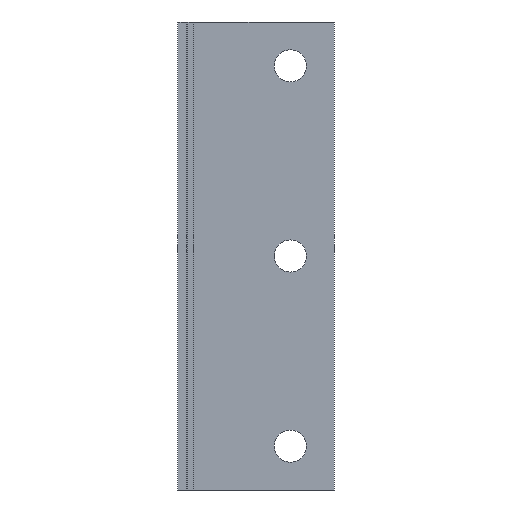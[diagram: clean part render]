
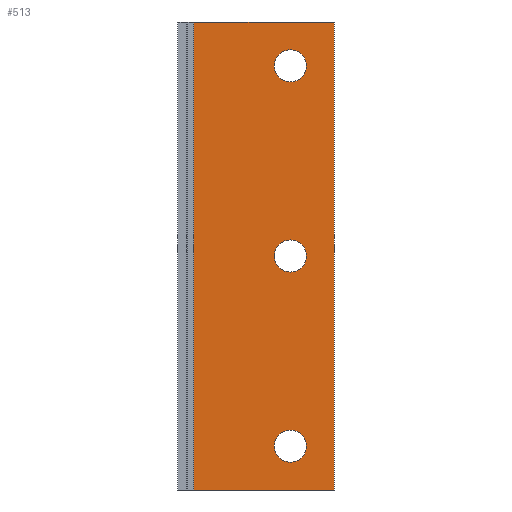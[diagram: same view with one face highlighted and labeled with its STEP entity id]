
A CAD part, front view. The second image highlights one B-rep face of the part: STEP entity #513.
In plain terms, the highlighted planar face has unit normal (0, -1, 0).
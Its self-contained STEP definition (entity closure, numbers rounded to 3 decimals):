
#62 = VERTEX_POINT ( 'NONE', #332 ) ;
#68 = VERTEX_POINT ( 'NONE', #338 ) ;
#70 = VERTEX_POINT ( 'NONE', #340 ) ;
#73 = VERTEX_POINT ( 'NONE', #343 ) ;
#74 = VERTEX_POINT ( 'NONE', #344 ) ;
#78 = VERTEX_POINT ( 'NONE', #348 ) ;
#170 = VERTEX_POINT ( 'NONE', #1761 ) ;
#173 = VERTEX_POINT ( 'NONE', #1764 ) ;
#221 = VERTEX_POINT ( 'NONE', #1810 ) ;
#280 = VERTEX_POINT ( 'NONE', #1826 ) ;
#332 = CARTESIAN_POINT ( 'NONE',  ( 35., 0., -74.5 ) ) ;
#338 = CARTESIAN_POINT ( 'NONE',  ( 35., 0., -150.5 ) ) ;
#340 = CARTESIAN_POINT ( 'NONE',  ( 35., 0., -85.5 ) ) ;
#343 = CARTESIAN_POINT ( 'NONE',  ( 35., 0., -20.5 ) ) ;
#344 = CARTESIAN_POINT ( 'NONE',  ( 35., 0., -9.5 ) ) ;
#348 = CARTESIAN_POINT ( 'NONE',  ( 35., 0., -139.5 ) ) ;
#513 = ADVANCED_FACE ( 'NONE', ( #1683, #1687, #1684, #1686 ), #1855, .T. ) ;
#630 = EDGE_CURVE ( 'NONE', #221, #280, #4234, .T. ) ;
#672 = EDGE_CURVE ( 'NONE', #62, #70, #5066, .T. ) ;
#679 = EDGE_CURVE ( 'NONE', #74, #73, #5071, .T. ) ;
#712 = EDGE_LOOP ( 'NONE', ( #913, #914, #915, #916 ) ) ;
#720 = EDGE_LOOP ( 'NONE', ( #909, #910 ) ) ;
#725 = EDGE_LOOP ( 'NONE', ( #911, #912 ) ) ;
#727 = EDGE_LOOP ( 'NONE', ( #917, #918 ) ) ;
#909 = ORIENTED_EDGE ( 'NONE', *, *, #672, .F. ) ;
#910 = ORIENTED_EDGE ( 'NONE', *, *, #1024, .F. ) ;
#911 = ORIENTED_EDGE ( 'NONE', *, *, #679, .F. ) ;
#912 = ORIENTED_EDGE ( 'NONE', *, *, #1025, .F. ) ;
#913 = ORIENTED_EDGE ( 'NONE', *, *, #630, .F. ) ;
#914 = ORIENTED_EDGE ( 'NONE', *, *, #1026, .F. ) ;
#915 = ORIENTED_EDGE ( 'NONE', *, *, #1027, .T. ) ;
#916 = ORIENTED_EDGE ( 'NONE', *, *, #1022, .T. ) ;
#917 = ORIENTED_EDGE ( 'NONE', *, *, #1479, .F. ) ;
#918 = ORIENTED_EDGE ( 'NONE', *, *, #1028, .F. ) ;
#1022 = EDGE_CURVE ( 'NONE', #173, #280, #5135, .T. ) ;
#1024 = EDGE_CURVE ( 'NONE', #70, #62, #5139, .T. ) ;
#1025 = EDGE_CURVE ( 'NONE', #73, #74, #5141, .T. ) ;
#1026 = EDGE_CURVE ( 'NONE', #170, #221, #5142, .T. ) ;
#1027 = EDGE_CURVE ( 'NONE', #170, #173, #5137, .T. ) ;
#1028 = EDGE_CURVE ( 'NONE', #68, #78, #5145, .T. ) ;
#1479 = EDGE_CURVE ( 'NONE', #78, #68, #7207, .T. ) ;
#1683 = FACE_BOUND ( 'NONE', #720, .T. ) ;
#1684 = FACE_OUTER_BOUND ( 'NONE', #712, .T. ) ;
#1686 = FACE_BOUND ( 'NONE', #727, .T. ) ;
#1687 = FACE_BOUND ( 'NONE', #725, .T. ) ;
#1761 = CARTESIAN_POINT ( 'NONE',  ( 2., 0., -160. ) ) ;
#1764 = CARTESIAN_POINT ( 'NONE',  ( 50., 0., -160. ) ) ;
#1810 = CARTESIAN_POINT ( 'NONE',  ( 2., 0., 0. ) ) ;
#1826 = CARTESIAN_POINT ( 'NONE',  ( 50., 0., 0. ) ) ;
#1855 = PLANE ( 'NONE',  #2068 ) ;
#1863 = CARTESIAN_POINT ( 'NONE',  ( 2., 0., -160. ) ) ;
#1864 = DIRECTION ( 'NONE',  ( 0., -1., 0. ) ) ;
#1865 = DIRECTION ( 'NONE',  ( 0., 0., -1. ) ) ;
#2068 = AXIS2_PLACEMENT_3D ( 'NONE', #1863, #1864, #1865 ) ;
#4131 = AXIS2_PLACEMENT_3D ( 'NONE', #5387, #5388, #5389 ) ;
#4136 = AXIS2_PLACEMENT_3D ( 'NONE', #5406, #5407, #5408 ) ;
#4141 = AXIS2_PLACEMENT_3D ( 'NONE', #5764, #5765, #5766 ) ;
#4142 = AXIS2_PLACEMENT_3D ( 'NONE', #5768, #5769, #5770 ) ;
#4143 = AXIS2_PLACEMENT_3D ( 'NONE', #5776, #5777, #5778 ) ;
#4234 = LINE ( 'NONE', #4721, #4237 ) ;
#4237 = VECTOR ( 'NONE', #4722, 1000. ) ;
#4721 = CARTESIAN_POINT ( 'NONE',  ( 2., 0., 0. ) ) ;
#4722 = DIRECTION ( 'NONE',  ( 1., 0., 0. ) ) ;
#5066 = CIRCLE ( 'NONE', #4131, 5.5 ) ;
#5071 = CIRCLE ( 'NONE', #4136, 5.5 ) ;
#5135 = LINE ( 'NONE', #5759, #5138 ) ;
#5137 = LINE ( 'NONE', #5767, #5146 ) ;
#5138 = VECTOR ( 'NONE', #5760, 1000. ) ;
#5139 = CIRCLE ( 'NONE', #4141, 5.5 ) ;
#5141 = CIRCLE ( 'NONE', #4142, 5.5 ) ;
#5142 = LINE ( 'NONE', #5762, #5144 ) ;
#5144 = VECTOR ( 'NONE', #5763, 1000. ) ;
#5145 = CIRCLE ( 'NONE', #4143, 5.5 ) ;
#5146 = VECTOR ( 'NONE', #5772, 1000. ) ;
#5387 = CARTESIAN_POINT ( 'NONE',  ( 35., 0., -80. ) ) ;
#5388 = DIRECTION ( 'NONE',  ( 0., -1., 0. ) ) ;
#5389 = DIRECTION ( 'NONE',  ( 0., 0., -1. ) ) ;
#5406 = CARTESIAN_POINT ( 'NONE',  ( 35., 0., -15. ) ) ;
#5407 = DIRECTION ( 'NONE',  ( 0., -1., 0. ) ) ;
#5408 = DIRECTION ( 'NONE',  ( 0., 0., -1. ) ) ;
#5759 = CARTESIAN_POINT ( 'NONE',  ( 50., 0., -160. ) ) ;
#5760 = DIRECTION ( 'NONE',  ( 0., 0., 1. ) ) ;
#5762 = CARTESIAN_POINT ( 'NONE',  ( 2., 0., -160. ) ) ;
#5763 = DIRECTION ( 'NONE',  ( 0., 0., 1. ) ) ;
#5764 = CARTESIAN_POINT ( 'NONE',  ( 35., 0., -80. ) ) ;
#5765 = DIRECTION ( 'NONE',  ( 0., -1., 0. ) ) ;
#5766 = DIRECTION ( 'NONE',  ( 0., 0., -1. ) ) ;
#5767 = CARTESIAN_POINT ( 'NONE',  ( 2., 0., -160. ) ) ;
#5768 = CARTESIAN_POINT ( 'NONE',  ( 35., 0., -15. ) ) ;
#5769 = DIRECTION ( 'NONE',  ( 0., -1., 0. ) ) ;
#5770 = DIRECTION ( 'NONE',  ( 0., 0., -1. ) ) ;
#5772 = DIRECTION ( 'NONE',  ( 1., 0., 0. ) ) ;
#5776 = CARTESIAN_POINT ( 'NONE',  ( 35., 0., -145. ) ) ;
#5777 = DIRECTION ( 'NONE',  ( 0., -1., 0. ) ) ;
#5778 = DIRECTION ( 'NONE',  ( 0., 0., -1. ) ) ;
#5915 = AXIS2_PLACEMENT_3D ( 'NONE', #6823, #6824, #6825 ) ;
#6823 = CARTESIAN_POINT ( 'NONE',  ( 35., 0., -145. ) ) ;
#6824 = DIRECTION ( 'NONE',  ( 0., -1., 0. ) ) ;
#6825 = DIRECTION ( 'NONE',  ( 0., 0., -1. ) ) ;
#7207 = CIRCLE ( 'NONE', #5915, 5.5 ) ;
